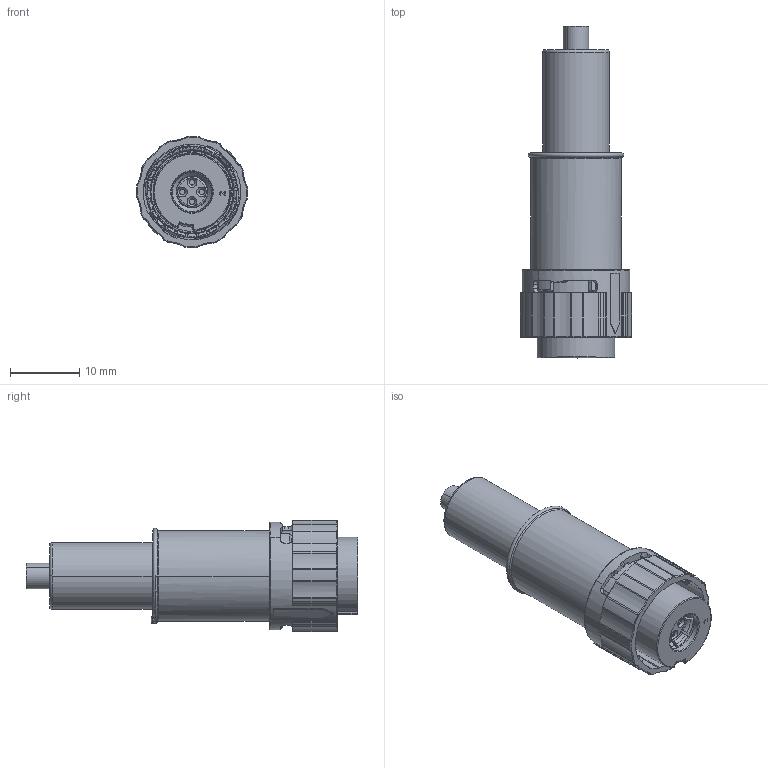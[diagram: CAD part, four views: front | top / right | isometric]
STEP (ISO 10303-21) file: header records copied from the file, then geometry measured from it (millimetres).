
FILE_DESCRIPTION((''),'2;1');
FILE_NAME('SJS801110_ASM','2015-10-21T',('MDigiacom'),(''),'PRO/ENGINEER BY PARAMETRIC TECHNOLOGY CORPORATION, 2014430','PRO/ENGINEER BY PARAMETRIC TECHNOLOGY CORPORATION, 2014430','');
FILE_SCHEMA(('CONFIG_CONTROL_DESIGN'));
Length unit declared in the file: inch
Products named in the file (8): 228308301; 228308201; 310001910; CNS882200; SJSA8E000; 220830130SZ; 310200301SZ; SJS801110_ASM
Assembly tree (7 placements, depth 2):
  SJS801110_ASM
    228308301
    228308201
    310001910
    CNS882200
    SJSA8E000
    220830130SZ
    310200301SZ
Bounding box: 16.13 x 48.07 x 16.13 mm (x, y, z)
Volume: 4372.3 mm3; surface area: 8504.6 mm2
Topology: 8 solids, 8 shells, 1150 faces, 3079 edges, 1961 vertices
Faces by surface type: plane 418, cylinder 327, torus 240, cone 114, bspline 41, sphere 10
Entity records: 39563 total; most frequent: CARTESIAN_POINT 11041, ORIENTED_EDGE 6154, DIRECTION 5847, EDGE_CURVE 3077, AXIS2_PLACEMENT_3D 2309, VERTEX_POINT 1961, VECTOR 1229, LINE 1229
